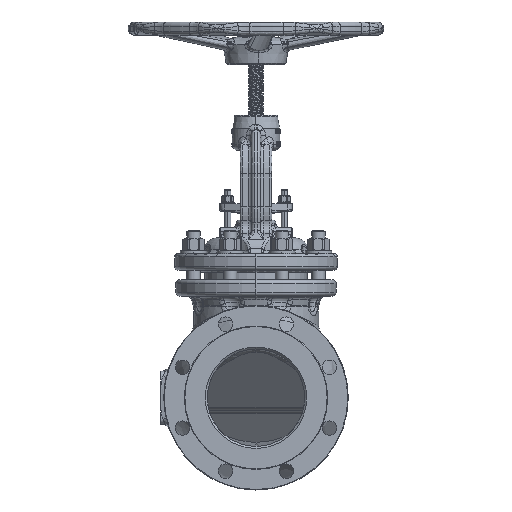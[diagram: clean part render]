
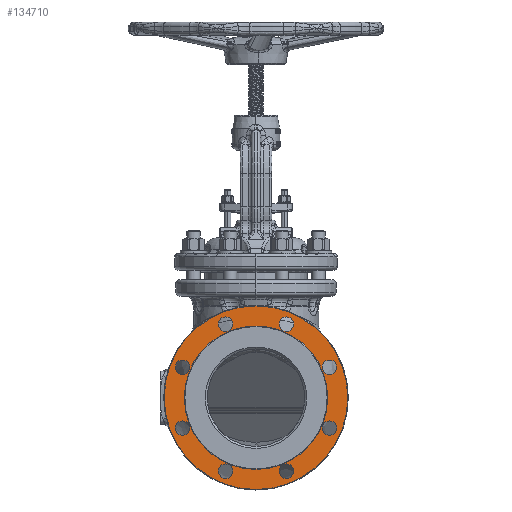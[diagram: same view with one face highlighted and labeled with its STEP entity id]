
A CAD part, left-side view. The second image highlights one B-rep face of the part: STEP entity #134710.
In plain terms, the highlighted planar face has unit normal (-1, 0, 0).
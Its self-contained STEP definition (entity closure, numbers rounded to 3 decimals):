
#46021=CARTESIAN_POINT('',(-201.4,0.,0.));
#46022=DIRECTION('',(-1.,0.,0.));
#46023=DIRECTION('',(0.,0.,-1.));
#46024=AXIS2_PLACEMENT_3D('',#46021,#46022,#46023);
#46031=CARTESIAN_POINT('',(-201.4,0.,0.));
#46032=DIRECTION('',(-1.,0.,0.));
#46033=DIRECTION('',(0.,0.,1.));
#46034=AXIS2_PLACEMENT_3D('',#46031,#46032,#46033);
#46036=CARTESIAN_POINT('',(-201.4,0.,0.));
#46037=DIRECTION('',(1.,0.,0.));
#46038=DIRECTION('',(0.,0.,1.));
#46039=AXIS2_PLACEMENT_3D('',#46036,#46037,#46038);
#46041=CARTESIAN_POINT('',(-201.4,-46.171,111.466));
#46042=DIRECTION('',(1.,0.,0.));
#46043=DIRECTION('',(0.,1.,0.));
#46044=AXIS2_PLACEMENT_3D('',#46041,#46042,#46043);
#46046=CARTESIAN_POINT('',(-201.4,-46.171,111.466));
#46047=DIRECTION('',(1.,0.,0.));
#46048=DIRECTION('',(0.,-1.,0.));
#46049=AXIS2_PLACEMENT_3D('',#46046,#46047,#46048);
#46051=CARTESIAN_POINT('',(-201.4,-111.466,46.171));
#46052=DIRECTION('',(1.,0.,0.));
#46053=DIRECTION('',(0.,1.,0.));
#46054=AXIS2_PLACEMENT_3D('',#46051,#46052,#46053);
#46056=CARTESIAN_POINT('',(-201.4,-111.466,46.171));
#46057=DIRECTION('',(1.,0.,0.));
#46058=DIRECTION('',(0.,-1.,0.));
#46059=AXIS2_PLACEMENT_3D('',#46056,#46057,#46058);
#46061=CARTESIAN_POINT('',(-201.4,-111.466,-46.171));
#46062=DIRECTION('',(1.,0.,0.));
#46063=DIRECTION('',(0.,1.,0.));
#46064=AXIS2_PLACEMENT_3D('',#46061,#46062,#46063);
#46066=CARTESIAN_POINT('',(-201.4,-111.466,-46.171));
#46067=DIRECTION('',(1.,0.,0.));
#46068=DIRECTION('',(0.,-1.,0.));
#46069=AXIS2_PLACEMENT_3D('',#46066,#46067,#46068);
#46071=CARTESIAN_POINT('',(-201.4,-46.171,-111.466));
#46072=DIRECTION('',(1.,0.,0.));
#46073=DIRECTION('',(0.,1.,0.));
#46074=AXIS2_PLACEMENT_3D('',#46071,#46072,#46073);
#46076=CARTESIAN_POINT('',(-201.4,-46.171,-111.466));
#46077=DIRECTION('',(1.,0.,0.));
#46078=DIRECTION('',(0.,-1.,0.));
#46079=AXIS2_PLACEMENT_3D('',#46076,#46077,#46078);
#46081=CARTESIAN_POINT('',(-201.4,46.171,-111.466));
#46082=DIRECTION('',(1.,0.,0.));
#46083=DIRECTION('',(0.,1.,0.));
#46084=AXIS2_PLACEMENT_3D('',#46081,#46082,#46083);
#46086=CARTESIAN_POINT('',(-201.4,46.171,-111.466));
#46087=DIRECTION('',(1.,0.,0.));
#46088=DIRECTION('',(0.,-1.,0.));
#46089=AXIS2_PLACEMENT_3D('',#46086,#46087,#46088);
#46091=CARTESIAN_POINT('',(-201.4,111.466,-46.171));
#46092=DIRECTION('',(1.,0.,0.));
#46093=DIRECTION('',(0.,1.,0.));
#46094=AXIS2_PLACEMENT_3D('',#46091,#46092,#46093);
#46096=CARTESIAN_POINT('',(-201.4,111.466,-46.171));
#46097=DIRECTION('',(1.,0.,0.));
#46098=DIRECTION('',(0.,-1.,0.));
#46099=AXIS2_PLACEMENT_3D('',#46096,#46097,#46098);
#46101=CARTESIAN_POINT('',(-201.4,111.466,46.171));
#46102=DIRECTION('',(1.,0.,0.));
#46103=DIRECTION('',(0.,1.,0.));
#46104=AXIS2_PLACEMENT_3D('',#46101,#46102,#46103);
#46106=CARTESIAN_POINT('',(-201.4,111.466,46.171));
#46107=DIRECTION('',(1.,0.,0.));
#46108=DIRECTION('',(0.,-1.,0.));
#46109=AXIS2_PLACEMENT_3D('',#46106,#46107,#46108);
#46111=CARTESIAN_POINT('',(-201.4,46.171,111.466));
#46112=DIRECTION('',(1.,0.,0.));
#46113=DIRECTION('',(0.,1.,0.));
#46114=AXIS2_PLACEMENT_3D('',#46111,#46112,#46113);
#46116=CARTESIAN_POINT('',(-201.4,46.171,111.466));
#46117=DIRECTION('',(1.,0.,0.));
#46118=DIRECTION('',(0.,-1.,0.));
#46119=AXIS2_PLACEMENT_3D('',#46116,#46117,#46118);
#46121=CARTESIAN_POINT('',(-201.4,0.,0.));
#46122=DIRECTION('',(-1.,0.,0.));
#46123=DIRECTION('',(0.,0.,1.));
#46124=AXIS2_PLACEMENT_3D('',#46121,#46122,#46123);
#70499=CARTESIAN_POINT('',(-201.4,-57.171,111.466));
#70500=VERTEX_POINT('',#70499);
#70501=CARTESIAN_POINT('',(-201.4,-35.171,111.466));
#70502=VERTEX_POINT('',#70501);
#70507=CARTESIAN_POINT('',(-201.4,-122.466,46.171));
#70508=VERTEX_POINT('',#70507);
#70509=CARTESIAN_POINT('',(-201.4,-100.466,46.171));
#70510=VERTEX_POINT('',#70509);
#70515=CARTESIAN_POINT('',(-201.4,-122.466,-46.171));
#70516=VERTEX_POINT('',#70515);
#70517=CARTESIAN_POINT('',(-201.4,-100.466,-46.171));
#70518=VERTEX_POINT('',#70517);
#70523=CARTESIAN_POINT('',(-201.4,-57.171,-111.466));
#70524=VERTEX_POINT('',#70523);
#70525=CARTESIAN_POINT('',(-201.4,-35.171,-111.466));
#70526=VERTEX_POINT('',#70525);
#70531=CARTESIAN_POINT('',(-201.4,35.171,-111.466));
#70532=VERTEX_POINT('',#70531);
#70533=CARTESIAN_POINT('',(-201.4,57.171,-111.466));
#70534=VERTEX_POINT('',#70533);
#70539=CARTESIAN_POINT('',(-201.4,100.466,-46.171));
#70540=VERTEX_POINT('',#70539);
#70541=CARTESIAN_POINT('',(-201.4,122.466,-46.171));
#70542=VERTEX_POINT('',#70541);
#70547=CARTESIAN_POINT('',(-201.4,100.466,46.171));
#70548=VERTEX_POINT('',#70547);
#70549=CARTESIAN_POINT('',(-201.4,122.466,46.171));
#70550=VERTEX_POINT('',#70549);
#70555=CARTESIAN_POINT('',(-201.4,35.171,111.466));
#70556=VERTEX_POINT('',#70555);
#70557=CARTESIAN_POINT('',(-201.4,57.171,111.466));
#70558=VERTEX_POINT('',#70557);
#71872=CARTESIAN_POINT('',(-201.4,0.,-139.244));
#71873=CARTESIAN_POINT('',(-201.4,0.,139.244));
#71874=VERTEX_POINT('',#71872);
#71875=VERTEX_POINT('',#71873);
#72511=CARTESIAN_POINT('',(-201.4,0.,108.75));
#72512=VERTEX_POINT('',#72511);
#72515=CARTESIAN_POINT('',(-201.4,0.,-108.75));
#72516=VERTEX_POINT('',#72515);
#134646=CARTESIAN_POINT('',(-201.4,0.,0.));
#134647=DIRECTION('',(-1.,0.,0.));
#134648=DIRECTION('',(0.,0.,1.));
#134649=AXIS2_PLACEMENT_3D('',#134646,#134647,#134648);
#134650=PLANE('',#134649);
#134651=ORIENTED_EDGE('',*,*,#134636,.F.);
#134653=ORIENTED_EDGE('',*,*,#134652,.F.);
#134654=EDGE_LOOP('',(#134651,#134653));
#134655=FACE_OUTER_BOUND('',#134654,.F.);
#134657=ORIENTED_EDGE('',*,*,#134656,.T.);
#134659=ORIENTED_EDGE('',*,*,#134658,.F.);
#134660=EDGE_LOOP('',(#134657,#134659));
#134661=FACE_BOUND('',#134660,.F.);
#134663=ORIENTED_EDGE('',*,*,#134662,.F.);
#134665=ORIENTED_EDGE('',*,*,#134664,.F.);
#134666=EDGE_LOOP('',(#134663,#134665));
#134667=FACE_BOUND('',#134666,.F.);
#134669=ORIENTED_EDGE('',*,*,#134668,.F.);
#134671=ORIENTED_EDGE('',*,*,#134670,.F.);
#134672=EDGE_LOOP('',(#134669,#134671));
#134673=FACE_BOUND('',#134672,.F.);
#134675=ORIENTED_EDGE('',*,*,#134674,.F.);
#134677=ORIENTED_EDGE('',*,*,#134676,.F.);
#134678=EDGE_LOOP('',(#134675,#134677));
#134679=FACE_BOUND('',#134678,.F.);
#134681=ORIENTED_EDGE('',*,*,#134680,.F.);
#134683=ORIENTED_EDGE('',*,*,#134682,.F.);
#134684=EDGE_LOOP('',(#134681,#134683));
#134685=FACE_BOUND('',#134684,.F.);
#134687=ORIENTED_EDGE('',*,*,#134686,.F.);
#134689=ORIENTED_EDGE('',*,*,#134688,.F.);
#134690=EDGE_LOOP('',(#134687,#134689));
#134691=FACE_BOUND('',#134690,.F.);
#134693=ORIENTED_EDGE('',*,*,#134692,.F.);
#134695=ORIENTED_EDGE('',*,*,#134694,.F.);
#134696=EDGE_LOOP('',(#134693,#134695));
#134697=FACE_BOUND('',#134696,.F.);
#134699=ORIENTED_EDGE('',*,*,#134698,.F.);
#134701=ORIENTED_EDGE('',*,*,#134700,.F.);
#134702=EDGE_LOOP('',(#134699,#134701));
#134703=FACE_BOUND('',#134702,.F.);
#134705=ORIENTED_EDGE('',*,*,#134704,.F.);
#134707=ORIENTED_EDGE('',*,*,#134706,.F.);
#134708=EDGE_LOOP('',(#134705,#134707));
#134709=FACE_BOUND('',#134708,.F.);
#46025=CIRCLE('',#46024,139.244);
#46035=CIRCLE('',#46034,108.75);
#46040=CIRCLE('',#46039,108.75);
#46045=CIRCLE('',#46044,11.);
#46050=CIRCLE('',#46049,11.);
#46055=CIRCLE('',#46054,11.);
#46060=CIRCLE('',#46059,11.);
#46065=CIRCLE('',#46064,11.);
#46070=CIRCLE('',#46069,11.);
#46075=CIRCLE('',#46074,11.);
#46080=CIRCLE('',#46079,11.);
#46085=CIRCLE('',#46084,11.);
#46090=CIRCLE('',#46089,11.);
#46095=CIRCLE('',#46094,11.);
#46100=CIRCLE('',#46099,11.);
#46105=CIRCLE('',#46104,11.);
#46110=CIRCLE('',#46109,11.);
#46115=CIRCLE('',#46114,11.);
#46120=CIRCLE('',#46119,11.);
#46125=CIRCLE('',#46124,139.244);
#134636=EDGE_CURVE('',#71874,#71875,#46025,.T.);
#134652=EDGE_CURVE('',#71875,#71874,#46125,.T.);
#134656=EDGE_CURVE('',#72512,#72516,#46035,.T.);
#134658=EDGE_CURVE('',#72512,#72516,#46040,.T.);
#134662=EDGE_CURVE('',#70502,#70500,#46045,.T.);
#134664=EDGE_CURVE('',#70500,#70502,#46050,.T.);
#134668=EDGE_CURVE('',#70510,#70508,#46055,.T.);
#134670=EDGE_CURVE('',#70508,#70510,#46060,.T.);
#134674=EDGE_CURVE('',#70518,#70516,#46065,.T.);
#134676=EDGE_CURVE('',#70516,#70518,#46070,.T.);
#134680=EDGE_CURVE('',#70526,#70524,#46075,.T.);
#134682=EDGE_CURVE('',#70524,#70526,#46080,.T.);
#134686=EDGE_CURVE('',#70534,#70532,#46085,.T.);
#134688=EDGE_CURVE('',#70532,#70534,#46090,.T.);
#134692=EDGE_CURVE('',#70542,#70540,#46095,.T.);
#134694=EDGE_CURVE('',#70540,#70542,#46100,.T.);
#134698=EDGE_CURVE('',#70550,#70548,#46105,.T.);
#134700=EDGE_CURVE('',#70548,#70550,#46110,.T.);
#134704=EDGE_CURVE('',#70558,#70556,#46115,.T.);
#134706=EDGE_CURVE('',#70556,#70558,#46120,.T.);
#134710=ADVANCED_FACE('',(#134655,#134661,#134667,#134673,#134679,#134685,
#134691,#134697,#134703,#134709),#134650,.T.);
